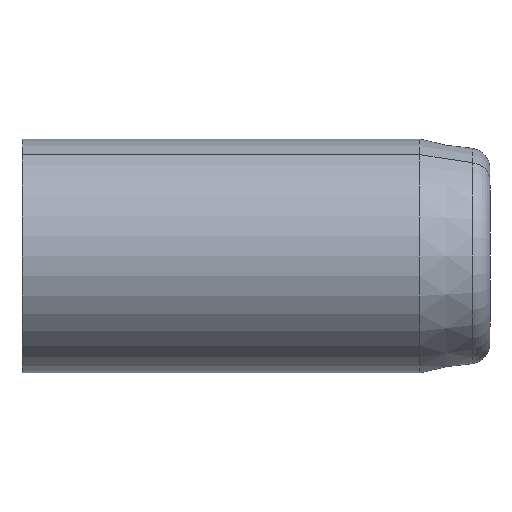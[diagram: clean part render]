
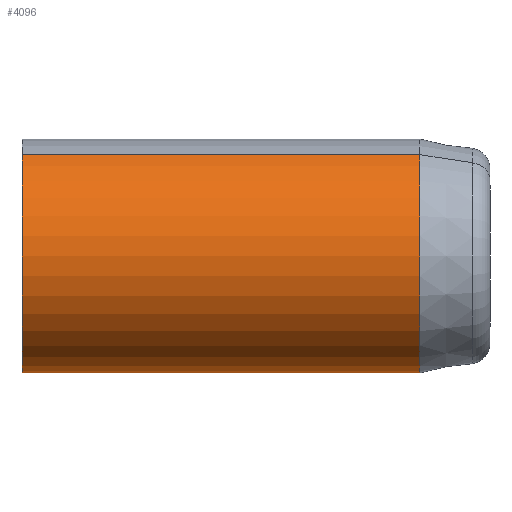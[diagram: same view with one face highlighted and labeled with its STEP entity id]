
A CAD part, left-side view. The second image highlights one B-rep face of the part: STEP entity #4096.
In plain terms, the highlighted cylindrical face has radius 5 mm (diameter 10 mm), a partial arc.
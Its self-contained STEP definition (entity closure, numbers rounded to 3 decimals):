
#20 = CARTESIAN_POINT ( 'NONE',  ( 0., -10.1, 0. ) ) ;
#253 = EDGE_LOOP ( 'NONE', ( #12073, #4710, #15016, #8762 ) ) ;
#524 = AXIS2_PLACEMENT_3D ( 'NONE', #3324, #11563, #2096 ) ;
#2096 = DIRECTION ( 'NONE',  ( -1., 0., 0. ) ) ;
#2247 = AXIS2_PLACEMENT_3D ( 'NONE', #8287, #7134, #2658 ) ;
#2516 = AXIS2_PLACEMENT_3D ( 'NONE', #20, #13985, #4756 ) ;
#2658 = DIRECTION ( 'NONE',  ( 0., 0., -1. ) ) ;
#2815 = EDGE_CURVE ( 'NONE', #5812, #8280, #8581, .T. ) ;
#3041 = CARTESIAN_POINT ( 'NONE',  ( 0., 10., -5. ) ) ;
#3324 = CARTESIAN_POINT ( 'NONE',  ( 0., 10., 0. ) ) ;
#3481 = EDGE_CURVE ( 'NONE', #15031, #5812, #9810, .T. ) ;
#3757 = FACE_OUTER_BOUND ( 'NONE', #253, .T. ) ;
#4017 = CARTESIAN_POINT ( 'NONE',  ( 0., -10.1, 5. ) ) ;
#4096 = ADVANCED_FACE ( 'NONE', ( #3757 ), #8324, .T. ) ;
#4192 = VERTEX_POINT ( 'NONE', #6253 ) ;
#4382 = EDGE_CURVE ( 'NONE', #15031, #4192, #12739, .T. ) ;
#4630 = LINE ( 'NONE', #9492, #10393 ) ;
#4681 = CARTESIAN_POINT ( 'NONE',  ( 0., 10., 5. ) ) ;
#4710 = ORIENTED_EDGE ( 'NONE', *, *, #4382, .F. ) ;
#4756 = DIRECTION ( 'NONE',  ( 0., 0., 1. ) ) ;
#5812 = VERTEX_POINT ( 'NONE', #4681 ) ;
#6026 = CARTESIAN_POINT ( 'NONE',  ( 0., -7., 5. ) ) ;
#6253 = CARTESIAN_POINT ( 'NONE',  ( 0., -7., -5. ) ) ;
#6363 = DIRECTION ( 'NONE',  ( 0., 1., 0. ) ) ;
#7134 = DIRECTION ( 'NONE',  ( 0., -1., 0. ) ) ;
#8280 = VERTEX_POINT ( 'NONE', #3041 ) ;
#8287 = CARTESIAN_POINT ( 'NONE',  ( 0., -7., 0. ) ) ;
#8324 = CYLINDRICAL_SURFACE ( 'NONE', #2516, 5. ) ;
#8581 = CIRCLE ( 'NONE', #524, 5. ) ;
#8762 = ORIENTED_EDGE ( 'NONE', *, *, #2815, .T. ) ;
#9492 = CARTESIAN_POINT ( 'NONE',  ( 0., -10.1, -5. ) ) ;
#9810 = LINE ( 'NONE', #4017, #12250 ) ;
#10393 = VECTOR ( 'NONE', #15069, 1000. ) ;
#11563 = DIRECTION ( 'NONE',  ( 0., -1., 0. ) ) ;
#12073 = ORIENTED_EDGE ( 'NONE', *, *, #14180, .F. ) ;
#12250 = VECTOR ( 'NONE', #6363, 1000. ) ;
#12739 = CIRCLE ( 'NONE', #2247, 5. ) ;
#13985 = DIRECTION ( 'NONE',  ( 0., 1., 0. ) ) ;
#14180 = EDGE_CURVE ( 'NONE', #4192, #8280, #4630, .T. ) ;
#15016 = ORIENTED_EDGE ( 'NONE', *, *, #3481, .T. ) ;
#15031 = VERTEX_POINT ( 'NONE', #6026 ) ;
#15069 = DIRECTION ( 'NONE',  ( 0., 1., 0. ) ) ;
